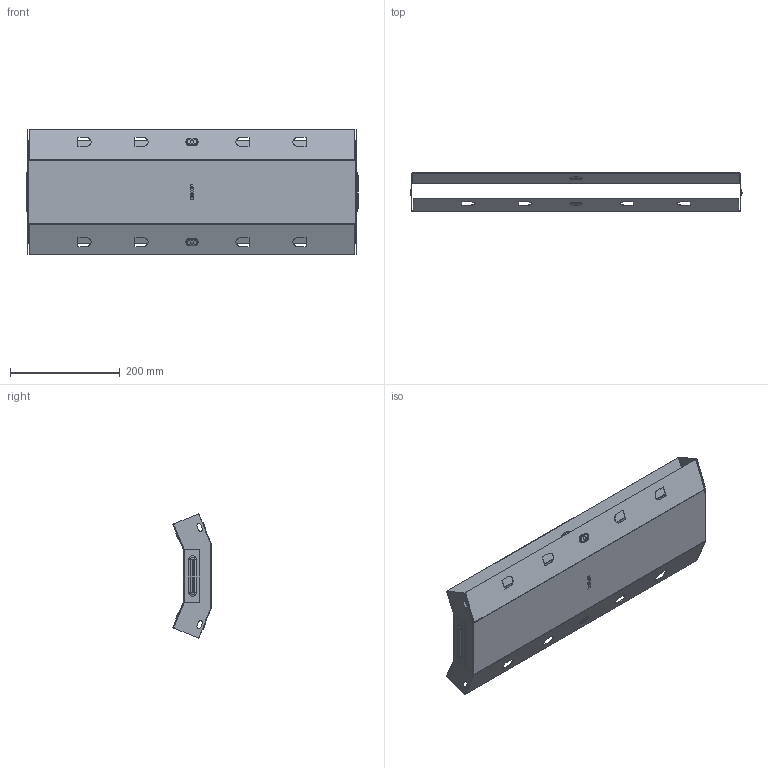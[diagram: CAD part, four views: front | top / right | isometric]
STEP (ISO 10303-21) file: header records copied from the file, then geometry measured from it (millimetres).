
FILE_DESCRIPTION (( 'STEP AP214' ), '1' );
FILE_NAME ('vi4550600_捘.STEP', '2019-06-10T08:32:05', ( '砐錪賧瘔蠈錪 Windows' ), ( '' ), 'SwSTEP 2.0', 'SolidWorks 2018', '' );
FILE_SCHEMA (( 'AUTOMOTIVE_DESIGN' ));
Length unit declared in the file: millimetre
Products named in the file (1): vi4550600_捘
Bounding box: 605.6 x 69.93 x 227.28 mm (x, y, z)
Volume: 225389.9 mm3; surface area: 567335.3 mm2
Topology: 2 solids, 2 shells, 448 faces, 1152 edges, 736 vertices
Faces by surface type: plane 246, cylinder 120, torus 64, bspline 18
Entity records: 14524 total; most frequent: CARTESIAN_POINT 3356, DIRECTION 2314, ORIENTED_EDGE 2304, EDGE_CURVE 1152, VECTOR 780, LINE 780, AXIS2_PLACEMENT_3D 767, VERTEX_POINT 736
